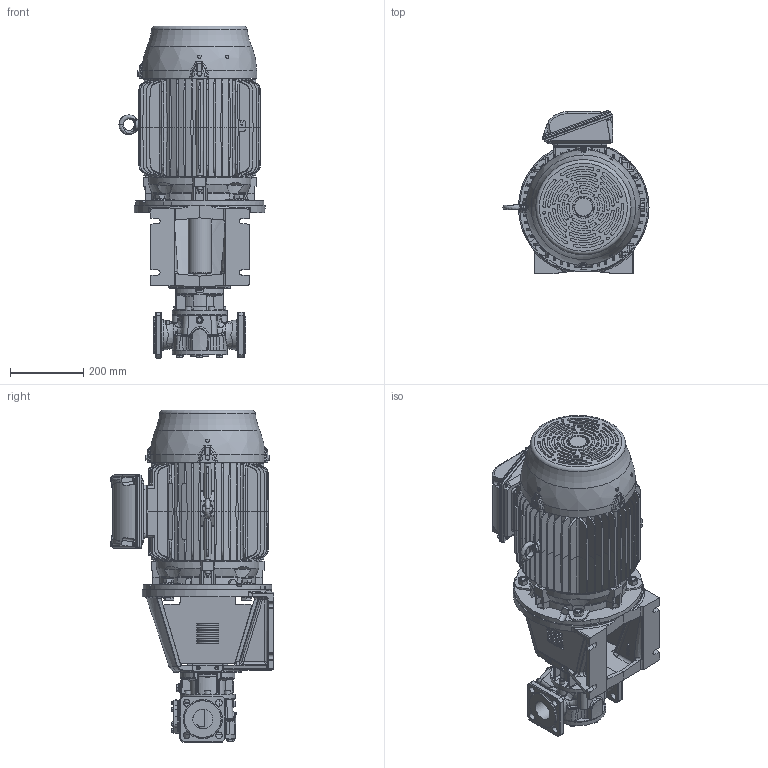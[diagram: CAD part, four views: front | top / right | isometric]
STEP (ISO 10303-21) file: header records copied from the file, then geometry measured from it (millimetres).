
FILE_DESCRIPTION(/* description */ (''),/* implementation_level */ '2;1');
FILE_NAME(/* name */ 'C:\V\JPP\Designs\GEAR PUMPS\PRODUCT ENGINEERING\EUROPE\TG BLOC\TG BLOC_15-50_G2_O_NRV-_160M-STEP.stp',/* time_stamp */ '2021-03-17T08:48:46+01:00',/* author */ ('A77THR'),/* organization */ (''),/* preprocessor_version */ 'ST-DEVELOPER v18.1',/* originating_system */ 'Autodesk Inventor 2020',/* authorisation */ '');
FILE_SCHEMA (('AUTOMOTIVE_DESIGN { 1 0 10303 214 3 1 1 }'));
Length unit declared in the file: millimetre
Products named in the file (1): TG BLOC_15-50_G2_O_NRV-_160M
Bounding box: 397.99 x 444.6 x 905 mm (x, y, z)
Volume: 43219523.9 mm3; surface area: 2261628.4 mm2
Topology: 1 solids, 1 shells, 4517 faces, 11862 edges, 7505 vertices
Faces by surface type: plane 1822, cylinder 1010, bspline 985, cone 514, torus 150, sphere 36
Full cylindrical faces by diameter (mm): 4 x1, 4.5 x8, 4.917 x8, 5 x1, 5.459 x8, 6 x8, 6.647 x1, 7 x12, 7.5 x3, 8 x13, 8.376 x5, 8.5 x2, 8.7 x8, 9.188 x4, 9.4 x1, 10 x12, 10.5 x1, 11.445 x2, 11.5 x4, 11.6 x7, 12 x4, 12.5 x3, 13 x4, 14 x1, 15.011 x3, 15.4 x10, 16 x6, 17.9 x3, 18 x11, 19 x3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
Entity records: 191227 total; most frequent: CARTESIAN_POINT 82748, ORIENTED_EDGE 23544, DIRECTION 19694, EDGE_CURVE 11772, AXIS2_PLACEMENT_3D 7601, VERTEX_POINT 7505, EDGE_LOOP 4901, FACE_OUTER_BOUND 4517
